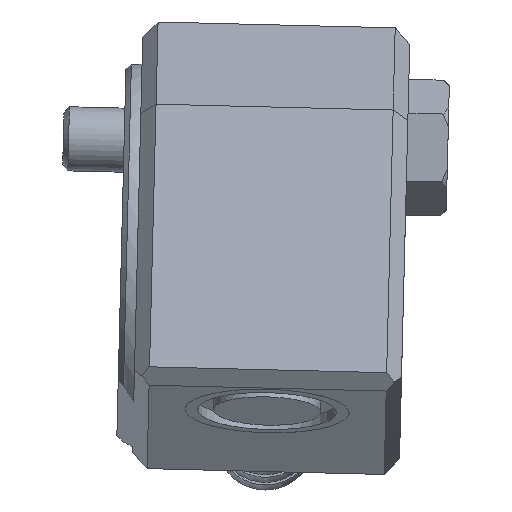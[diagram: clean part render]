
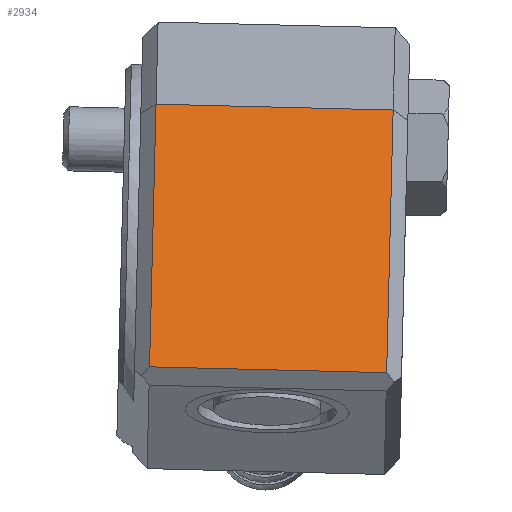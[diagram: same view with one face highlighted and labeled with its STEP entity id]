
A CAD part, top view. The second image highlights one B-rep face of the part: STEP entity #2934.
In plain terms, the highlighted planar face has unit normal (0.006, 0.263, 0.965).
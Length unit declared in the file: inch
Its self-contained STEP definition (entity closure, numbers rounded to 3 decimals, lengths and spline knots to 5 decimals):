
#201=LINE('',#4495,#365);
#206=LINE('',#4505,#370);
#208=LINE('',#4509,#372);
#209=LINE('',#4510,#373);
#365=VECTOR('',#3621,0.3937);
#370=VECTOR('',#3632,0.3937);
#372=VECTOR('',#3636,0.3937);
#373=VECTOR('',#3637,0.3937);
#562=FACE_OUTER_BOUND('',#734,.T.);
#734=EDGE_LOOP('',(#1956,#1957,#1958,#1959));
#1145=VERTEX_POINT('',#4492);
#1146=VERTEX_POINT('',#4494);
#1148=VERTEX_POINT('',#4504);
#1149=VERTEX_POINT('',#4508);
#1462=EDGE_CURVE('',#1145,#1146,#201,.T.);
#1467=EDGE_CURVE('',#1146,#1148,#206,.T.);
#1469=EDGE_CURVE('',#1149,#1145,#208,.T.);
#1470=EDGE_CURVE('',#1148,#1149,#209,.T.);
#1956=ORIENTED_EDGE('',*,*,#1462,.F.);
#1957=ORIENTED_EDGE('',*,*,#1469,.F.);
#1958=ORIENTED_EDGE('',*,*,#1470,.F.);
#1959=ORIENTED_EDGE('',*,*,#1467,.F.);
#2663=PLANE('',#3167);
#2934=ADVANCED_FACE('',(#562),#2663,.T.);
#3167=AXIS2_PLACEMENT_3D('',#4507,#3634,#3635);
#3621=DIRECTION('',(0.024,0.964,-0.263));
#3632=DIRECTION('',(1.,-0.025,0.));
#3634=DIRECTION('center_axis',(0.006,0.263,0.965));
#3635=DIRECTION('ref_axis',(-0.024,-0.964,0.263));
#3636=DIRECTION('',(-1.,0.025,0.));
#3637=DIRECTION('',(-0.024,-0.964,0.263));
#4492=CARTESIAN_POINT('',(-0.92265,-0.85819,1.11648));
#4494=CARTESIAN_POINT('',(-0.89873,0.11008,0.85234));
#4495=CARTESIAN_POINT('',(-0.90246,-0.04086,0.89351));
#4504=CARTESIAN_POINT('',(-0.02498,0.08849,0.85234));
#4505=CARTESIAN_POINT('',(-0.95384,0.11144,0.85234));
#4507=CARTESIAN_POINT('Origin',(-0.95384,0.11144,0.85234));
#4508=CARTESIAN_POINT('',(-0.0489,-0.87978,1.11648));
#4509=CARTESIAN_POINT('',(-0.97775,-0.85683,1.11648));
#4510=CARTESIAN_POINT('',(-0.02871,-0.06244,0.89351));
